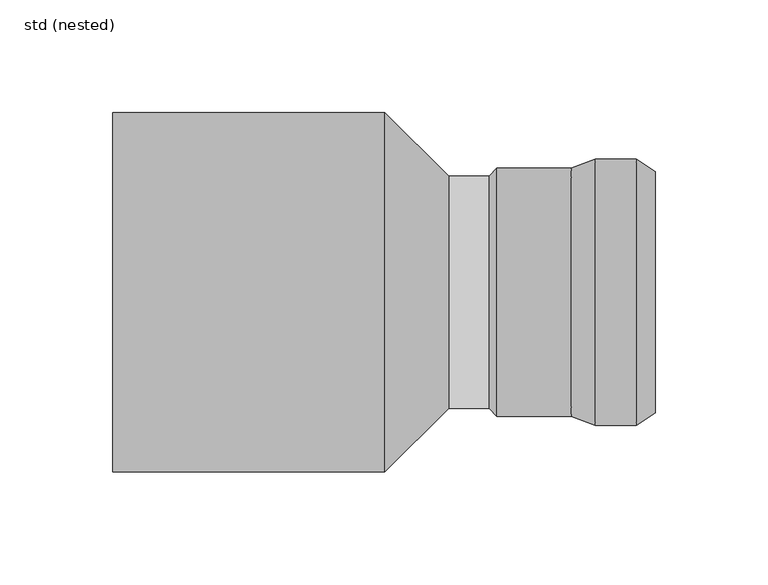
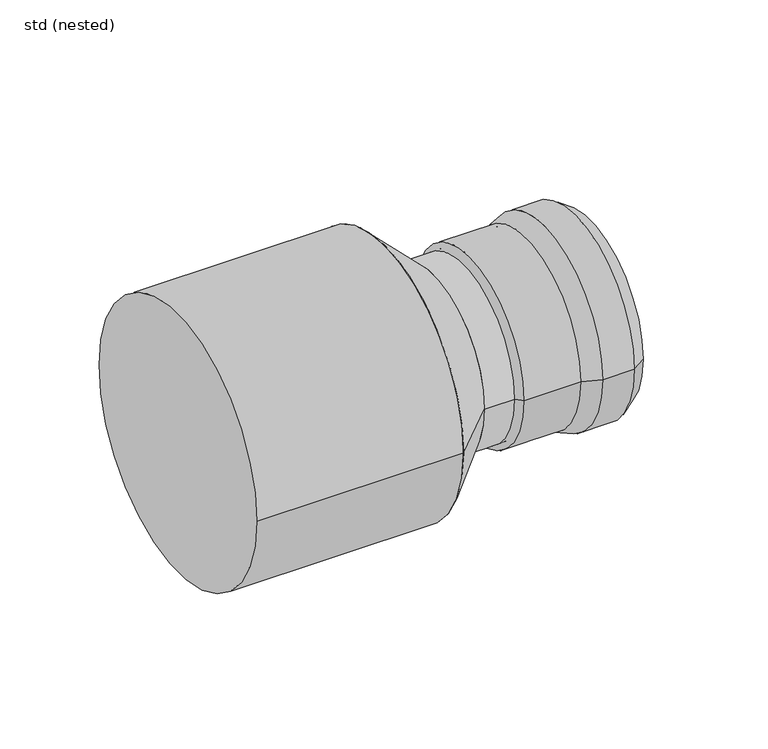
"""IFC4 building model written with IfcOpenShell, lengths in millimetres: pipe fitting geometry, ZZZ_do not use_PIF_ST_UN_GM-X transition element_ACO : std (nested)."""

from ifc_helpers import new_model, si_unit, point, frame, origin, origin_2d, place, context, project, spatial, polyline, circle_curve, trimmed, segment, composite_curve, outline, extrude, source, transform, mapped, element, save
from ifc_brep_helpers import plane_surface, cylinder_surface, revolved_surface, advanced_brep


def std_nested_f4b71964(model_context):
    return source(origin(), model_context, "Body", "SolidModel", [
        advanced_brep(
        [(128.5, -59.0, 0.0), (128.5, 59.0, 0.0), (146.7, 59.0, 0.0), (146.7, -59.0, 0.0), (118.0, -55.0, 0.0), (118.0, 55.0, 0.0), (155.0, 53.5, 0.0), (155.0, -53.5, 0.0), (85.0, -55.0, 0.0), (85.0, 55.0, 0.0), (81.5, -51.5, 0.0), (81.5, 51.5, 0.0), (85.0, -51.5, 0.0), (85.0, 51.5, 0.0), (118.3680513, -53.0, 0.0), (118.3680513, 53.0, 0.0), (85.0, 53.0, 0.0), (85.0, -53.0, 0.0), (128.8680513, -57.0, 0.0), (128.8680513, 57.0, 0.0), (146.0974883, -57.0, 0.0), (146.0974883, 57.0, 0.0), (153.8952393, -51.8328156, 0.0), (153.8952393, 51.8328156, 0.0)],
        [
            (0, 1, circle_curve(frame((128.5, 0.0, 0.0), z_axis=(1.0, 0.0, 0.0), x_axis=(0.0, 1.0, 0.0)), 59.0)),
            (1, 2),
            (2, 3, circle_curve(frame((146.7, 0.0, 0.0), z_axis=(-1.0, 0.0, 0.0), x_axis=(0.0, 1.0, 0.0)), 59.0)),
            (3, 0),
            (1, 0, circle_curve(frame((128.5, 0.0, 0.0), z_axis=(1.0, 0.0, 0.0), x_axis=(0.0, 1.0, 0.0)), 59.0)),
            (3, 2, circle_curve(frame((146.7, 0.0, 0.0), z_axis=(-1.0, 0.0, 0.0), x_axis=(0.0, 1.0, 0.0)), 59.0)),
            (4, 5, circle_curve(frame((118.0, 0.0, 0.0), z_axis=(1.0, 0.0, 0.0), x_axis=(0.0, 1.0, 0.0)), 55.0)),
            (5, 1),
            (0, 4),
            (5, 4, circle_curve(frame((118.0, 0.0, 0.0), z_axis=(1.0, 0.0, 0.0), x_axis=(0.0, 1.0, 0.0)), 55.0)),
            (2, 6),
            (6, 7, circle_curve(frame((155.0, 0.0, 0.0), z_axis=(-1.0, 0.0, 0.0), x_axis=(0.0, 1.0, 0.0)), 53.5)),
            (7, 3),
            (7, 6, circle_curve(frame((155.0, 0.0, 0.0), z_axis=(-1.0, 0.0, 0.0), x_axis=(0.0, 1.0, 0.0)), 53.5)),
            (8, 9, circle_curve(frame((85.0, 0.0, 0.0), z_axis=(1.0, 0.0, 0.0), x_axis=(0.0, 1.0, 0.0)), 55.0)),
            (9, 5),
            (4, 8),
            (9, 8, circle_curve(frame((85.0, 0.0, 0.0), z_axis=(1.0, 0.0, 0.0), x_axis=(0.0, 1.0, 0.0)), 55.0)),
            (10, 11, circle_curve(frame((81.5, 0.0, 0.0), z_axis=(1.0, 0.0, 0.0), x_axis=(0.0, 1.0, 0.0)), 51.5)),
            (11, 9),
            (8, 10),
            (11, 10, circle_curve(frame((81.5, 0.0, 0.0), z_axis=(1.0, 0.0, 0.0), x_axis=(0.0, 1.0, 0.0)), 51.5)),
            (12, 13, circle_curve(frame((85.0, 0.0, 0.0), z_axis=(1.0, 0.0, 0.0), x_axis=(0.0, 1.0, 0.0)), 51.5)),
            (13, 11),
            (10, 12),
            (13, 12, circle_curve(frame((85.0, 0.0, 0.0), z_axis=(1.0, 0.0, 0.0), x_axis=(0.0, 1.0, 0.0)), 51.5)),
            (14, 15, circle_curve(frame((118.3680513, 0.0, 0.0), z_axis=(1.0, 0.0, 0.0), x_axis=(0.0, 1.0, 0.0)), 53.0)),
            (15, 16),
            (16, 17, circle_curve(frame((85.0, 0.0, 0.0), z_axis=(-1.0, 0.0, 0.0), x_axis=(0.0, 1.0, 0.0)), 53.0)),
            (17, 14),
            (15, 14, circle_curve(frame((118.3680513, 0.0, 0.0), z_axis=(1.0, 0.0, 0.0), x_axis=(0.0, 1.0, 0.0)), 53.0)),
            (17, 16, circle_curve(frame((85.0, 0.0, 0.0), z_axis=(-1.0, 0.0, 0.0), x_axis=(0.0, 1.0, 0.0)), 53.0)),
            (18, 19, circle_curve(frame((128.8680513, 0.0, 0.0), z_axis=(1.0, 0.0, 0.0), x_axis=(0.0, 1.0, 0.0)), 57.0)),
            (19, 15),
            (14, 18),
            (19, 18, circle_curve(frame((128.8680513, 0.0, 0.0), z_axis=(1.0, 0.0, 0.0), x_axis=(0.0, 1.0, 0.0)), 57.0)),
            (20, 21, circle_curve(frame((146.0974883, 0.0, 0.0), z_axis=(1.0, 0.0, 0.0), x_axis=(0.0, 1.0, 0.0)), 57.0)),
            (21, 19),
            (18, 20),
            (21, 20, circle_curve(frame((146.0974883, 0.0, 0.0), z_axis=(1.0, 0.0, 0.0), x_axis=(0.0, 1.0, 0.0)), 57.0)),
            (22, 23, circle_curve(frame((153.8952393, 0.0, 0.0), z_axis=(1.0, 0.0, 0.0), x_axis=(0.0, 1.0, 0.0)), 51.8328156)),
            (23, 21),
            (20, 22),
            (23, 22, circle_curve(frame((153.8952393, 0.0, 0.0), z_axis=(1.0, 0.0, 0.0), x_axis=(0.0, 1.0, 0.0)), 51.8328156)),
            (6, 23),
            (22, 7),
            (16, 13),
            (12, 17),
        ],
        [
            cylinder_surface(frame((151.6444117, 0.0, 0.0), z_axis=(-1.0, 0.0, 0.0), x_axis=(0.0, 1.0, 0.0)), 59.0),
            revolved_surface(polyline([(128.5, 59.0, 0.0), (118.0, 55.0, 0.0)]), (151.6444117, 0.0, 0.0), (-1.0, 0.0, 0.0)),
            revolved_surface(polyline([(155.0, 53.5, 0.0), (146.7, 59.0, 0.0)]), (151.6444117, 0.0, 0.0), (-1.0, 0.0, 0.0)),
            cylinder_surface(frame((151.6444117, 0.0, 0.0), z_axis=(-1.0, 0.0, 0.0), x_axis=(0.0, 1.0, 0.0)), 55.0),
            revolved_surface(polyline([(85.0, 55.0, 0.0), (81.5, 51.5, 0.0)]), (151.6444117, 0.0, 0.0), (-1.0, 0.0, 0.0)),
            revolved_surface(polyline([(81.5, 51.5, 0.0), (85.0, 51.5, 0.0)]), (151.6444117, 0.0, 0.0), (-1.0, 0.0, 0.0)),
            revolved_surface(polyline([(85.0, 53.0, 0.0), (118.3680513, 53.0, 0.0)]), (151.6444117, 0.0, 0.0), (-1.0, 0.0, 0.0)),
            revolved_surface(polyline([(118.3680513, 53.0, 0.0), (128.8680513, 57.0, 0.0)]), (151.6444117, 0.0, 0.0), (-1.0, 0.0, 0.0)),
            revolved_surface(polyline([(128.8680513, 57.0, 0.0), (146.0974883, 57.0, 0.0)]), (151.6444117, 0.0, 0.0), (-1.0, 0.0, 0.0)),
            revolved_surface(polyline([(146.0974883, 57.0, 0.0), (153.8952393, 51.8328156, 0.0)]), (151.6444117, 0.0, 0.0), (-1.0, 0.0, 0.0)),
            revolved_surface(polyline([(153.8952393, 51.8328156, 0.0), (155.0, 53.5, 0.0)]), (151.6444117, 0.0, 0.0), (-1.0, 0.0, 0.0)),
            plane_surface(frame((85.0, 0.0, 0.0), z_axis=(1.0, 0.0, 0.0), x_axis=(0.0, 1.0, 0.0))),
        ],
        [
            (0, [[1, 2, 3, 4]]),
            (0, [[5, -4, 6, -2]]),
            (1, [[7, 8, -1, 9]]),
            (1, [[10, -9, -5, -8]]),
            (2, [[-3, 11, 12, 13]]),
            (2, [[-6, -13, 14, -11]]),
            (3, [[15, 16, -7, 17]]),
            (3, [[18, -17, -10, -16]]),
            (4, [[19, 20, -15, 21]]),
            (4, [[22, -21, -18, -20]]),
            (5, [[23, 24, -19, 25]]),
            (5, [[26, -25, -22, -24]]),
            (6, [[27, 28, 29, 30]]),
            (6, [[31, -30, 32, -28]]),
            (7, [[33, 34, -27, 35]]),
            (7, [[36, -35, -31, -34]]),
            (8, [[37, 38, -33, 39]]),
            (8, [[40, -39, -36, -38]]),
            (9, [[41, 42, -37, 43]]),
            (9, [[44, -43, -40, -42]]),
            (10, [[-12, 45, -41, 46]]),
            (10, [[-14, -46, -44, -45]]),
            (11, [[-29, 47, -23, 48]]),
            (11, [[-32, -48, -26, -47]]),
        ],
    ),
        advanced_brep(
        [(63.75, -51.5, 0.0), (63.75, 51.5, 0.0), (35.4166667, -79.5, 0.0), (35.4166667, 79.5, 0.0)],
        [
            (0, 1, circle_curve(frame((63.75, 0.0, 0.0), z_axis=(1.0, 1.5096441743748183e-12, 0.0), x_axis=(1.5096535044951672e-12, -1.0, 0.0)), 51.5)),
            (1, 0, circle_curve(frame((63.75, 0.0, 0.0), z_axis=(1.0, 1.5096441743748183e-12, 0.0), x_axis=(-1.509653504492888e-12, 1.0, 0.0)), 51.5)),
            (2, 3, circle_curve(frame((35.4166667, 0.0, 0.0), z_axis=(-1.0, -1.5096441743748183e-12, 0.0), x_axis=(-1.509653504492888e-12, 1.0, 0.0)), 79.5)),
            (3, 2, circle_curve(frame((35.4166667, 0.0, 0.0), z_axis=(-1.0, -1.5096441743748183e-12, 0.0), x_axis=(1.5096535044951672e-12, -1.0, 0.0)), 79.5)),
            (3, 1),
            (0, 2),
        ],
        [
            plane_surface(frame((63.75, 0.0, 0.0), z_axis=(1.0, 0.0, 0.0), x_axis=(0.0, 0.0, -1.0))),
            plane_surface(frame((35.4166667, 0.0, 0.0), z_axis=(-1.0, 0.0, 0.0), x_axis=(0.0, 0.0, -1.0))),
            revolved_surface(polyline([(63.75000000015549, -51.50000000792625, 0.0), (35.41666670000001, -79.5, 0.0)]), (115.8630952, 0.0, 0.0), (-1.0, -1.5096441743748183e-12, 0.0)),
            revolved_surface(polyline([(63.75000000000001, 51.500000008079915, 0.0), (35.416666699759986, 79.5000000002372, 0.0)]), (115.8630952, 0.0, 0.0), (-1.0, -1.5096441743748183e-12, 0.0)),
        ],
        [
            (0, [[1, 2]]),
            (1, [[3, 4]]),
            (2, [[-4, 5, -1, 6]]),
            (3, [[-3, -6, -2, -5]]),
        ],
    ),
        extrude(outline(composite_curve([segment(trimmed(circle_curve(origin_2d(), 51.5), [point((51.5, 0.0))], [point((-51.5, 0.0))], False, "CARTESIAN"), True, "CONTINUOUS"), segment(trimmed(circle_curve(origin_2d(), 51.5), [point((-51.5, 0.0))], [point((51.5, 0.0))], False, "CARTESIAN"), True, "CONTINUOUS")], self_intersect=False)), frame((63.75, 0.0, 0.0), z_axis=(1.0, 0.0, 0.0), x_axis=(0.0, 1.0, 0.0)), (0.0, 0.0, 1.0), 21.25),
        extrude(outline(composite_curve([segment(trimmed(circle_curve(origin_2d(), 79.5), [point((-79.5, 0.0))], [point((79.5, 0.0))], False, "CARTESIAN"), True, "CONTINUOUS"), segment(trimmed(circle_curve(origin_2d(), 79.5), [point((79.5, 0.0))], [point((-79.5, 0.0))], False, "CARTESIAN"), True, "CONTINUOUS")], self_intersect=False)), frame((-85.0, 0.0, 0.0), z_axis=(1.0, 0.0, 0.0), x_axis=(0.0, 1.0, 0.0)), (0.0, 0.0, 1.0), 120.4166667),
    ])


if __name__ == "__main__":
    model = new_model("IFC4")
    model_context = context("Model", 3, world=origin())
    ifc_project = project(units=[si_unit("LENGTHUNIT", "METRE", prefix="MILLI")], contexts=[model_context])
    site = spatial("IfcSite", under=ifc_project)
    building = spatial("IfcBuilding", under=site)
    placement = place(None, origin())
    std_nested_shape = std_nested_f4b71964(model_context)
    element("IfcPipeFitting", 1, ObjectType="ZZZ_do not use_PIF_ST_UN_GM-X transition element_ACO : std (nested)", at=placement, inside=building, context=model_context, shape_type="MappedRepresentation", body=[
        mapped(std_nested_shape, transform((0.0, 0.0, 0.0), x_axis=(1.0, 0.0, 0.0), y_axis=(0.0, 1.0, 0.0), z_axis=(0.0, 0.0, 1.0))),
    ])
    save(model, "model.ifc")
